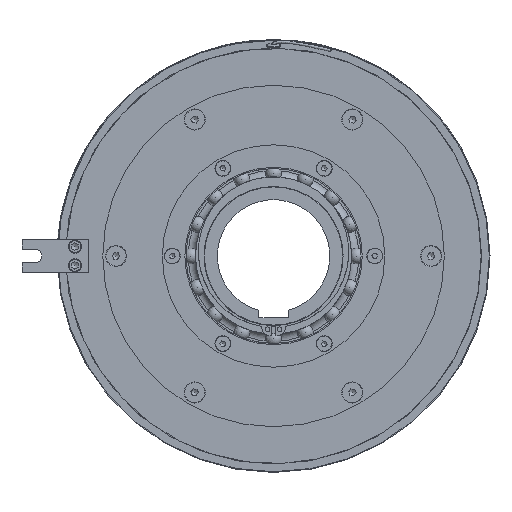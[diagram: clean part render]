
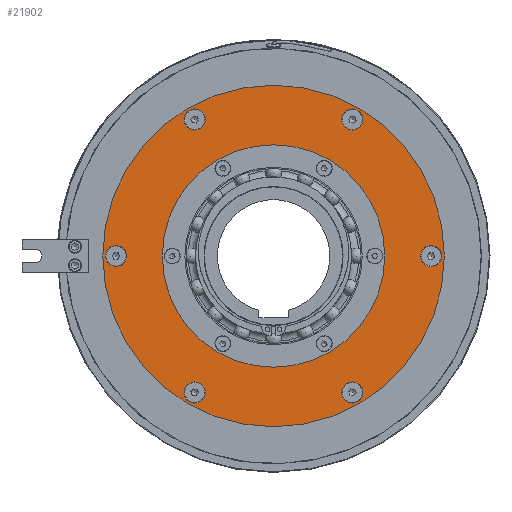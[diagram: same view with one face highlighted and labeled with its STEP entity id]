
A CAD part, left-side view. The second image highlights one B-rep face of the part: STEP entity #21902.
In plain terms, the highlighted planar face has unit normal (-1, 0, 0).
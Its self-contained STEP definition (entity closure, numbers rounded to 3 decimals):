
#627=FACE_BOUND('',#3297,.T.);
#628=FACE_BOUND('',#3298,.T.);
#629=FACE_BOUND('',#3299,.T.);
#630=FACE_BOUND('',#3300,.T.);
#631=FACE_BOUND('',#3301,.T.);
#632=FACE_BOUND('',#3302,.T.);
#633=FACE_BOUND('',#3303,.T.);
#1046=PLANE('',#23405);
#2129=FACE_OUTER_BOUND('',#3296,.T.);
#3296=EDGE_LOOP('',(#15663,#15664));
#3297=EDGE_LOOP('',(#15665,#15666));
#3298=EDGE_LOOP('',(#15667,#15668));
#3299=EDGE_LOOP('',(#15669,#15670));
#3300=EDGE_LOOP('',(#15671,#15672));
#3301=EDGE_LOOP('',(#15673,#15674));
#3302=EDGE_LOOP('',(#15675,#15676));
#3303=EDGE_LOOP('',(#15677,#15678));
#6749=CIRCLE('',#23388,8.);
#6750=CIRCLE('',#23389,8.);
#6751=CIRCLE('',#23391,8.);
#6752=CIRCLE('',#23392,8.);
#6753=CIRCLE('',#23394,8.);
#6754=CIRCLE('',#23395,8.);
#6755=CIRCLE('',#23397,8.);
#6756=CIRCLE('',#23398,8.);
#6757=CIRCLE('',#23400,8.);
#6758=CIRCLE('',#23401,8.);
#6759=CIRCLE('',#23403,8.);
#6760=CIRCLE('',#23404,8.);
#6761=CIRCLE('',#23406,129.);
#6762=CIRCLE('',#23407,129.);
#6763=CIRCLE('',#23408,84.);
#6764=CIRCLE('',#23409,84.);
#8721=VERTEX_POINT('',#38889);
#8722=VERTEX_POINT('',#38890);
#8723=VERTEX_POINT('',#38895);
#8724=VERTEX_POINT('',#38896);
#8725=VERTEX_POINT('',#38901);
#8726=VERTEX_POINT('',#38902);
#8727=VERTEX_POINT('',#38907);
#8728=VERTEX_POINT('',#38908);
#8729=VERTEX_POINT('',#38913);
#8730=VERTEX_POINT('',#38914);
#8731=VERTEX_POINT('',#38919);
#8732=VERTEX_POINT('',#38920);
#8733=VERTEX_POINT('',#38925);
#8734=VERTEX_POINT('',#38926);
#8735=VERTEX_POINT('',#38929);
#8736=VERTEX_POINT('',#38930);
#11421=EDGE_CURVE('',#8721,#8722,#6749,.T.);
#11422=EDGE_CURVE('',#8722,#8721,#6750,.T.);
#11424=EDGE_CURVE('',#8723,#8724,#6751,.T.);
#11425=EDGE_CURVE('',#8724,#8723,#6752,.T.);
#11427=EDGE_CURVE('',#8725,#8726,#6753,.T.);
#11428=EDGE_CURVE('',#8726,#8725,#6754,.T.);
#11430=EDGE_CURVE('',#8727,#8728,#6755,.T.);
#11431=EDGE_CURVE('',#8728,#8727,#6756,.T.);
#11433=EDGE_CURVE('',#8729,#8730,#6757,.T.);
#11434=EDGE_CURVE('',#8730,#8729,#6758,.T.);
#11436=EDGE_CURVE('',#8731,#8732,#6759,.T.);
#11437=EDGE_CURVE('',#8732,#8731,#6760,.T.);
#11439=EDGE_CURVE('',#8733,#8734,#6761,.T.);
#11440=EDGE_CURVE('',#8734,#8733,#6762,.T.);
#11441=EDGE_CURVE('',#8735,#8736,#6763,.T.);
#11442=EDGE_CURVE('',#8736,#8735,#6764,.T.);
#15663=ORIENTED_EDGE('',*,*,#11439,.F.);
#15664=ORIENTED_EDGE('',*,*,#11440,.F.);
#15665=ORIENTED_EDGE('',*,*,#11421,.T.);
#15666=ORIENTED_EDGE('',*,*,#11422,.T.);
#15667=ORIENTED_EDGE('',*,*,#11424,.T.);
#15668=ORIENTED_EDGE('',*,*,#11425,.T.);
#15669=ORIENTED_EDGE('',*,*,#11427,.T.);
#15670=ORIENTED_EDGE('',*,*,#11428,.T.);
#15671=ORIENTED_EDGE('',*,*,#11430,.T.);
#15672=ORIENTED_EDGE('',*,*,#11431,.T.);
#15673=ORIENTED_EDGE('',*,*,#11433,.T.);
#15674=ORIENTED_EDGE('',*,*,#11434,.T.);
#15675=ORIENTED_EDGE('',*,*,#11436,.T.);
#15676=ORIENTED_EDGE('',*,*,#11437,.T.);
#15677=ORIENTED_EDGE('',*,*,#11441,.T.);
#15678=ORIENTED_EDGE('',*,*,#11442,.T.);
#21902=ADVANCED_FACE('',(#2129,#627,#628,#629,#630,#631,#632,#633),#1046,
 .T.);
#23388=AXIS2_PLACEMENT_3D('',#38891,#27027,#27028);
#23389=AXIS2_PLACEMENT_3D('',#38892,#27029,#27030);
#23391=AXIS2_PLACEMENT_3D('',#38897,#27034,#27035);
#23392=AXIS2_PLACEMENT_3D('',#38898,#27036,#27037);
#23394=AXIS2_PLACEMENT_3D('',#38903,#27041,#27042);
#23395=AXIS2_PLACEMENT_3D('',#38904,#27043,#27044);
#23397=AXIS2_PLACEMENT_3D('',#38909,#27048,#27049);
#23398=AXIS2_PLACEMENT_3D('',#38910,#27050,#27051);
#23400=AXIS2_PLACEMENT_3D('',#38915,#27055,#27056);
#23401=AXIS2_PLACEMENT_3D('',#38916,#27057,#27058);
#23403=AXIS2_PLACEMENT_3D('',#38921,#27062,#27063);
#23404=AXIS2_PLACEMENT_3D('',#38922,#27064,#27065);
#23405=AXIS2_PLACEMENT_3D('',#38924,#27067,#27068);
#23406=AXIS2_PLACEMENT_3D('',#38927,#27069,#27070);
#23407=AXIS2_PLACEMENT_3D('',#38928,#27071,#27072);
#23408=AXIS2_PLACEMENT_3D('',#38931,#27073,#27074);
#23409=AXIS2_PLACEMENT_3D('',#38932,#27075,#27076);
#27027=DIRECTION('center_axis',(1.,0.,0.));
#27028=DIRECTION('ref_axis',(0.,0.,
1.));
#27029=DIRECTION('center_axis',(1.,0.,0.));
#27030=DIRECTION('ref_axis',(0.,0.,
1.));
#27034=DIRECTION('center_axis',(1.,0.,0.));
#27035=DIRECTION('ref_axis',(0.,0.,
1.));
#27036=DIRECTION('center_axis',(1.,0.,0.));
#27037=DIRECTION('ref_axis',(0.,0.,
1.));
#27041=DIRECTION('center_axis',(1.,0.,0.));
#27042=DIRECTION('ref_axis',(0.,0.,
1.));
#27043=DIRECTION('center_axis',(1.,0.,0.));
#27044=DIRECTION('ref_axis',(0.,0.,
1.));
#27048=DIRECTION('center_axis',(1.,0.,0.));
#27049=DIRECTION('ref_axis',(0.,0.,
1.));
#27050=DIRECTION('center_axis',(1.,0.,0.));
#27051=DIRECTION('ref_axis',(0.,0.,
1.));
#27055=DIRECTION('center_axis',(1.,0.,0.));
#27056=DIRECTION('ref_axis',(0.,0.,
1.));
#27057=DIRECTION('center_axis',(1.,0.,0.));
#27058=DIRECTION('ref_axis',(0.,0.,
1.));
#27062=DIRECTION('center_axis',(1.,0.,0.));
#27063=DIRECTION('ref_axis',(0.,0.,
1.));
#27064=DIRECTION('center_axis',(1.,0.,0.));
#27065=DIRECTION('ref_axis',(0.,0.,
1.));
#27067=DIRECTION('center_axis',(-1.,0.,0.));
#27068=DIRECTION('ref_axis',(0.,0.,
1.));
#27069=DIRECTION('center_axis',(1.,0.,0.));
#27070=DIRECTION('ref_axis',(0.,1.,0.));
#27071=DIRECTION('center_axis',(1.,0.,0.));
#27072=DIRECTION('ref_axis',(0.,1.,0.));
#27073=DIRECTION('center_axis',(1.,0.,0.));
#27074=DIRECTION('ref_axis',(0.,1.,0.));
#27075=DIRECTION('center_axis',(1.,0.,0.));
#27076=DIRECTION('ref_axis',(0.,1.,0.));
#38889=CARTESIAN_POINT('',(-31.,59.5,111.057));
#38890=CARTESIAN_POINT('',(-31.,59.5,95.057));
#38891=CARTESIAN_POINT('Origin',(-31.,59.5,103.057));
#38892=CARTESIAN_POINT('Origin',(-31.,59.5,103.057));
#38895=CARTESIAN_POINT('',(-31.,-59.5,111.057));
#38896=CARTESIAN_POINT('',(-31.,-59.5,95.057));
#38897=CARTESIAN_POINT('Origin',(-31.,-59.5,103.057));
#38898=CARTESIAN_POINT('Origin',(-31.,-59.5,103.057));
#38901=CARTESIAN_POINT('',(-31.,-119.,8.));
#38902=CARTESIAN_POINT('',(-31.,-119.,-8.));
#38903=CARTESIAN_POINT('Origin',(-31.,-119.,0.));
#38904=CARTESIAN_POINT('Origin',(-31.,-119.,0.));
#38907=CARTESIAN_POINT('',(-31.,-59.5,-95.057));
#38908=CARTESIAN_POINT('',(-31.,-59.5,-111.057));
#38909=CARTESIAN_POINT('Origin',(-31.,-59.5,-103.057));
#38910=CARTESIAN_POINT('Origin',(-31.,-59.5,-103.057));
#38913=CARTESIAN_POINT('',(-31.,59.5,-95.057));
#38914=CARTESIAN_POINT('',(-31.,59.5,-111.057));
#38915=CARTESIAN_POINT('Origin',(-31.,59.5,-103.057));
#38916=CARTESIAN_POINT('Origin',(-31.,59.5,-103.057));
#38919=CARTESIAN_POINT('',(-31.,119.,8.));
#38920=CARTESIAN_POINT('',(-31.,119.,-8.));
#38921=CARTESIAN_POINT('Origin',(-31.,119.,0.));
#38922=CARTESIAN_POINT('Origin',(-31.,119.,0.));
#38924=CARTESIAN_POINT('Origin',(-31.,106.5,0.));
#38925=CARTESIAN_POINT('',(-31.,129.,0.));
#38926=CARTESIAN_POINT('',(-31.,-129.,0.));
#38927=CARTESIAN_POINT('Origin',(-31.,0.,0.));
#38928=CARTESIAN_POINT('Origin',(-31.,0.,0.));
#38929=CARTESIAN_POINT('',(-31.,84.,0.));
#38930=CARTESIAN_POINT('',(-31.,-84.,0.));
#38931=CARTESIAN_POINT('Origin',(-31.,0.,0.));
#38932=CARTESIAN_POINT('Origin',(-31.,0.,0.));
